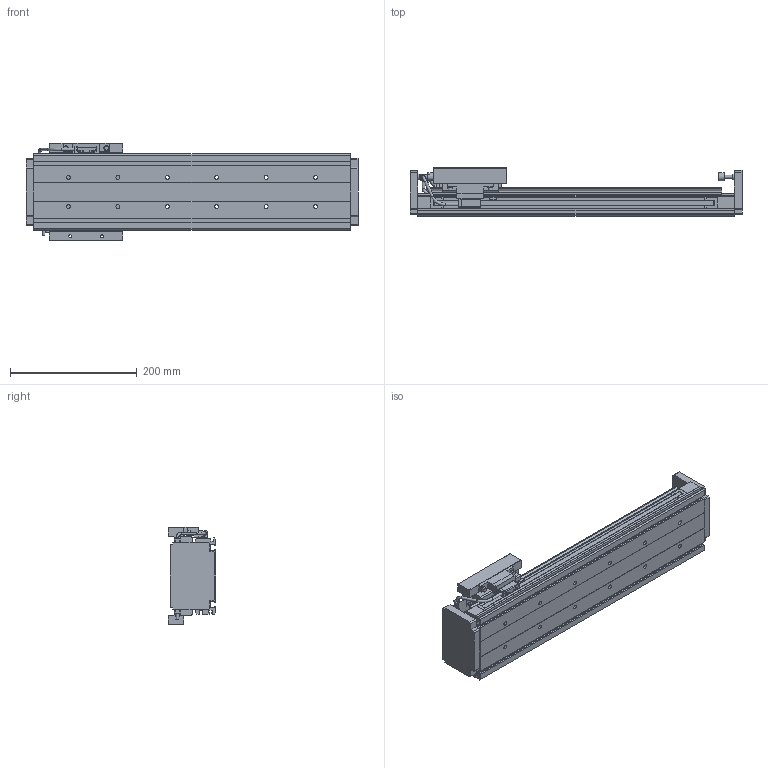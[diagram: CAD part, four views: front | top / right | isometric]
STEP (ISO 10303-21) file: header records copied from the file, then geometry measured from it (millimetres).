
FILE_DESCRIPTION(/* description */ ('STEP AP214'),/* implementation_level */ '2;1');
FILE_NAME(/* name */ 'GLM15AP-S-300-Q01K-N-TDP20-N-N-N-N-03(0_0)',/* time_stamp */ '2025-09-17T19:27:14+02:00',/* author */ ('License CC BY-ND 4.0'),/* organization */ ('CADENAS'),/* preprocessor_version */ 'ST-DEVELOPER v19.3',/* originating_system */ 'PARTsolutions',/* authorisation */ ' ');
FILE_SCHEMA (('AUTOMOTIVE_DESIGN {1 0 10303 214 3 1 1}'));
Length unit declared in the file: millimetre
Products named in the file (3): GLM15AP-S-300-Q01K-N-TDP20-N-N-N-N-03(0,0); GLM15-S-500-Q01K-N-N-b; GLM15AP-S-Q01K-N-1-slider
Assembly tree (2 placements, depth 2):
  GLM15AP-S-300-Q01K-N-TDP20-N-N-N-N-03(0,0)
    GLM15-S-500-Q01K-N-N-b
    GLM15AP-S-Q01K-N-1-slider
Bounding box: 524 x 75.6 x 154 mm (x, y, z)
Volume: 2088581.4 mm3; surface area: 400170.6 mm2
Topology: 2 solids, 2 shells, 811 faces, 2169 edges, 1416 vertices
Faces by surface type: plane 576, cylinder 195, cone 28, torus 12
Full cylindrical faces by diameter (mm): 1 x2, 2.135 x2, 2.459 x6, 3.065 x4, 3.242 x4, 3.85 x1, 4.25 x9, 4.57 x2, 4.917 x4, 5 x2, 5.5 x1, 6 x14, 6.5 x1, 7 x14, 8 x2, 9.2 x2, 12.5 x2
Entity records: 24436 total; most frequent: CARTESIAN_POINT 4261, DIRECTION 4075, ORIENTED_EDGE 4054, EDGE_CURVE 2027, LINE 1591, VECTOR 1591, VERTEX_POINT 1396, AXIS2_PLACEMENT_3D 1242
